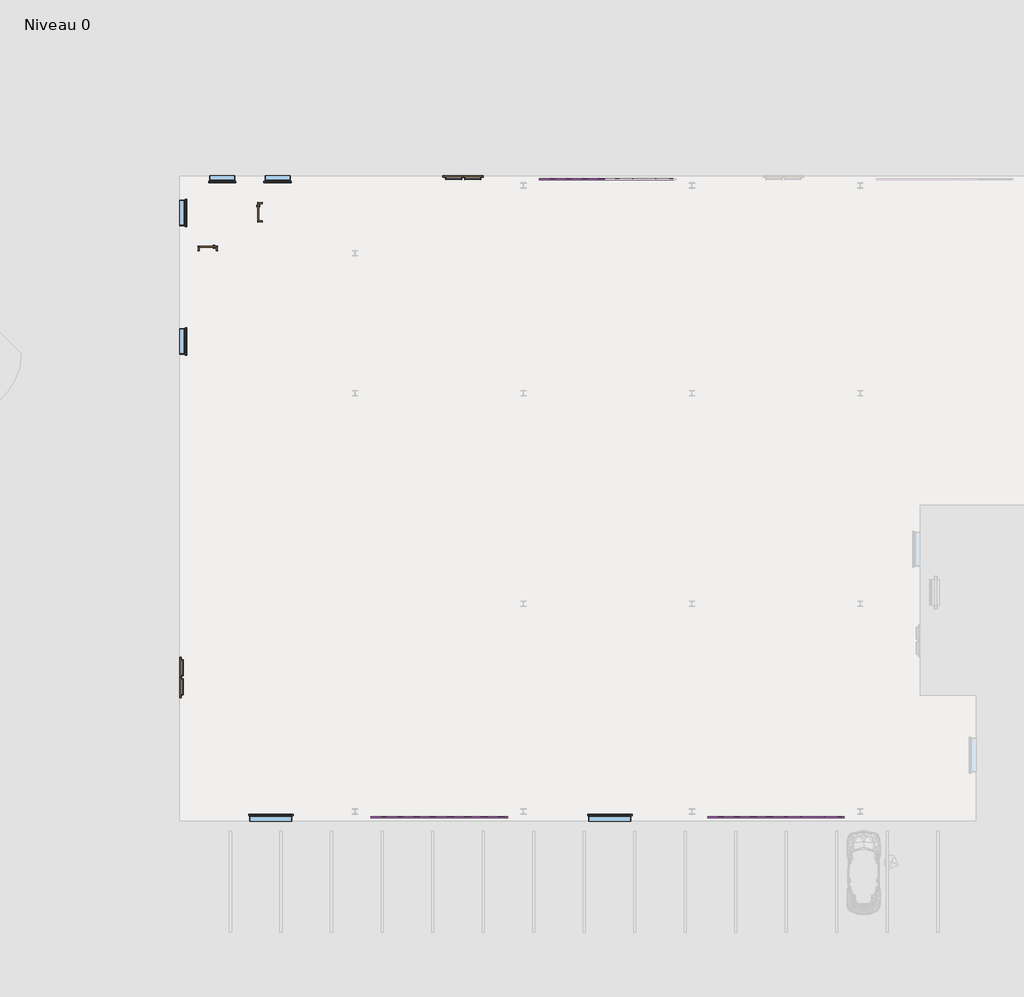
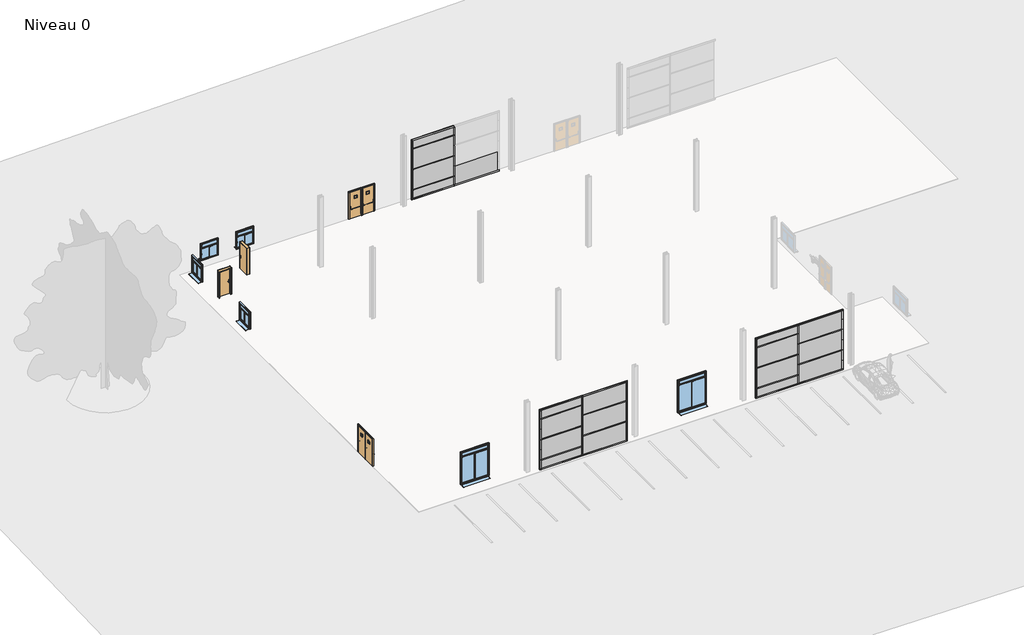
# One storey, part 1 of 2: 72 members, 19 plates, 8 doors, 6 windows.
"""IFC4 building model written with IfcOpenShell, lengths in millimetres."""

from ifc_helpers import new_model, si_unit, origin, place, context, project, spatial, transform, mapped, element, save
from components import door_abd412e6, door_0872574b, door_1_83m_x_2_10m_bea1f0ef, int_simple_pp_0_83m_x_2_04m_462b1650, meneau_rectangulaire_44a0aefb, meneau_rectangulaire_ebbe249c, meneau_rectangulaire_51ce5dd4, meneau_rectangulaire_7d612d43, meneau_rectangulaire_7dd63be9, meneau_rectangulaire_a7af7ef5, meneau_rectangulaire_d286e13e, meneau_rectangulaire_ef011fc9, meneau_rectangulaire_8479b786, meneau_rectangulaire_553993f6, meneau_rectangulaire_f8ff633f, meneau_rectangulaire_6299a4b6, meneau_rectangulaire_7ed9d279, meneau_rectangulaire_e1c9c612, meneau_rectangulaire_35514530, meneau_rectangulaire_8e3dbeaa, meneau_rectangulaire_d2acaf7e, meneau_rectangulaire_c977b74d, meneau_rectangulaire_8d5e7e53, meneau_rectangulaire_3428490f, meneau_rectangulaire_87f1da10, meneau_rectangulaire_1ec36c32, plate_52075400, plate_192b1ce9, plate_7e4ce03b, plate_5b870958, plate_f7b644e6, plate_6f0ddf90, plate_da70d993, window_1_20m_x_1_30m_dc114463, window_2_00m_x_2_50m_0c0f3709

model = new_model("IFC4")

# Units and contexts
model_context = context("Model", 3, world=origin())
ifc_project = project(units=[si_unit("LENGTHUNIT", "METRE", prefix="MILLI")], contexts=[model_context])

# Site, building, storey
site = spatial("IfcSite", under=ifc_project)
building = spatial("IfcBuilding", under=site)
storey = spatial("IfcBuildingStorey", under=building, Name="Niveau 0", Elevation=0.0)

# Doors
placement = place(None, origin())
door_shape = door_abd412e6(model_context)
element("IfcDoor", 1, ObjectType="BarreAP : BarreAP", at=placement, inside=storey, context=model_context, shape_type="MappedRepresentation", body=[
    mapped(door_shape, transform((13189.1961953, 30280.0, 0.0), x_axis=(1.0, 0.0, 0.0), y_axis=(0.0, 1.0, 0.0), z_axis=(0.0, 0.0, 1.0))),
])
element("IfcDoor", 2, ObjectType="BarreAP : BarreAP", at=placement, inside=storey, context=model_context, shape_type="MappedRepresentation", body=[
    mapped(door_shape, transform((-280.0, 6553.0018852, 0.0), x_axis=(0.0, 1.0, 0.0), y_axis=(-1.0, 0.0, 0.0), z_axis=(0.0, 0.0, 1.0))),
])
door_2_shape = door_0872574b(model_context)
element("IfcDoor", 3, ObjectType="BarreAP : BarreAP", at=placement, inside=storey, context=model_context, shape_type="MappedRepresentation", body=[
    mapped(door_2_shape, transform((13089.1961953, 30280.0, 0.0), x_axis=(-1.0, 0.0, 0.0), y_axis=(0.0, -1.0, 0.0), z_axis=(0.0, 0.0, 1.0))),
])
element("IfcDoor", 4, ObjectType="BarreAP : BarreAP", at=placement, inside=storey, context=model_context, shape_type="MappedRepresentation", body=[
    mapped(door_2_shape, transform((-280.0, 6453.0018852, 0.0), x_axis=(0.0, -1.0, 0.0), y_axis=(1.0, 0.0, 0.0), z_axis=(0.0, 0.0, 1.0))),
])
door_1_83m_x_2_10m_shape = door_1_83m_x_2_10m_bea1f0ef(model_context)
element("IfcDoor", 5, ObjectType="Issue de Secours : 1.83m x 2.10m", at=placement, inside=storey, context=model_context, shape_type="MappedRepresentation", body=[
    mapped(door_1_83m_x_2_10m_shape, transform((13139.1961953, 30150.0, 0.0), x_axis=(1.0, 0.0, 0.0), y_axis=(0.0, 1.0, 0.0), z_axis=(0.0, 0.0, 1.0))),
])
element("IfcDoor", 6, ObjectType="Issue de Secours : 1.83m x 2.10m", at=placement, inside=storey, context=model_context, shape_type="MappedRepresentation", body=[
    mapped(door_1_83m_x_2_10m_shape, transform((-150.0, 6503.0018852, 0.0), x_axis=(0.0, 1.0, 0.0), y_axis=(-1.0, 0.0, 0.0), z_axis=(0.0, 0.0, 1.0))),
])
int_simple_pp_0_83m_x_2_04m_shape = int_simple_pp_0_83m_x_2_04m_462b1650(model_context)
element("IfcDoor", 7, ObjectType="Int. Simple : PP (0.83m x 2.04m)", at=placement, inside=storey, context=model_context, shape_type="MappedRepresentation", body=[
    mapped(int_simple_pp_0_83m_x_2_04m_shape, transform((3490.578323, 28555.0, 0.0), x_axis=(0.0, -1.0, 0.0), y_axis=(1.0, 0.0, 0.0), z_axis=(0.0, 0.0, 1.0))),
])
element("IfcDoor", 8, ObjectType="Int. Simple : PP (0.83m x 2.04m)", at=placement, inside=storey, context=model_context, shape_type="MappedRepresentation", body=[
    mapped(int_simple_pp_0_83m_x_2_04m_shape, transform((975.0, 26865.9166667, 0.0), x_axis=(-1.0, 0.0, 0.0), y_axis=(0.0, -1.0, 0.0), z_axis=(0.0, 0.0, 1.0))),
])

# Members
meneau_rectangulaire_shape = meneau_rectangulaire_44a0aefb(model_context)
element("IfcMember", 9, ObjectType="Meneau rectangulaire : 5x5cm aluminium laqué gris foncé", at=placement, inside=storey, context=model_context, shape_type="MappedRepresentation", body=[
    mapped(meneau_rectangulaire_shape, transform((11905.2096551, -150.0, 100.0), x_axis=(1.0, 0.0, 0.0), y_axis=(0.0, -1.0, 0.0), z_axis=(0.0, 0.0, -1.0))),
])
element("IfcMember", 10, ObjectType="Meneau rectangulaire : 5x5cm aluminium laqué gris foncé", at=placement, inside=storey, context=model_context, shape_type="MappedRepresentation", body=[
    mapped(meneau_rectangulaire_shape, transform((27905.2096551, -150.0, 100.0), x_axis=(1.0, 0.0, 0.0), y_axis=(0.0, -1.0, 0.0), z_axis=(0.0, 0.0, -1.0))),
])
element("IfcMember", 11, ObjectType="Meneau rectangulaire : 5x5cm aluminium laqué gris foncé", at=placement, inside=storey, context=model_context, shape_type="MappedRepresentation", body=[
    mapped(meneau_rectangulaire_shape, transform((19905.2096551, 30150.0, 100.0), x_axis=(1.0, 0.0, 0.0), y_axis=(0.0, -1.0, 0.0), z_axis=(0.0, 0.0, -1.0))),
])
meneau_rectangulaire_2_shape = meneau_rectangulaire_ebbe249c(model_context)
element("IfcMember", 12, ObjectType="Meneau rectangulaire : 5x5cm aluminium laqué gris foncé", at=placement, inside=storey, context=model_context, shape_type="MappedRepresentation", body=[
    mapped(meneau_rectangulaire_2_shape, transform((11905.2096551, -150.0, 3188.16086), x_axis=(1.0, 0.0, 0.0), y_axis=(0.0, -1.0, 0.0), z_axis=(0.0, 0.0, -1.0))),
])
element("IfcMember", 13, ObjectType="Meneau rectangulaire : 5x5cm aluminium laqué gris foncé", at=placement, inside=storey, context=model_context, shape_type="MappedRepresentation", body=[
    mapped(meneau_rectangulaire_2_shape, transform((27905.2096551, -150.0, 3188.16086), x_axis=(1.0, 0.0, 0.0), y_axis=(0.0, -1.0, 0.0), z_axis=(0.0, 0.0, -1.0))),
])
element("IfcMember", 14, ObjectType="Meneau rectangulaire : 5x5cm aluminium laqué gris foncé", at=placement, inside=storey, context=model_context, shape_type="MappedRepresentation", body=[
    mapped(meneau_rectangulaire_2_shape, transform((19905.2096551, 30150.0, 3188.16086), x_axis=(1.0, 0.0, 0.0), y_axis=(0.0, -1.0, 0.0), z_axis=(0.0, 0.0, -1.0))),
])
meneau_rectangulaire_3_shape = meneau_rectangulaire_51ce5dd4(model_context)
element("IfcMember", 15, ObjectType="Meneau rectangulaire : 5x5cm aluminium laqué gris foncé", at=placement, inside=storey, context=model_context, shape_type="MappedRepresentation", body=[
    mapped(meneau_rectangulaire_3_shape, transform((11905.2096551, -150.0, 2372.10724), x_axis=(1.0, 0.0, 0.0), y_axis=(0.0, -1.0, 0.0), z_axis=(0.0, 0.0, -1.0))),
])
element("IfcMember", 16, ObjectType="Meneau rectangulaire : 5x5cm aluminium laqué gris foncé", at=placement, inside=storey, context=model_context, shape_type="MappedRepresentation", body=[
    mapped(meneau_rectangulaire_3_shape, transform((27905.2096551, -150.0, 2372.10724), x_axis=(1.0, 0.0, 0.0), y_axis=(0.0, -1.0, 0.0), z_axis=(0.0, 0.0, -1.0))),
])
element("IfcMember", 17, ObjectType="Meneau rectangulaire : 5x5cm aluminium laqué gris foncé", at=placement, inside=storey, context=model_context, shape_type="MappedRepresentation", body=[
    mapped(meneau_rectangulaire_3_shape, transform((19905.2096551, 30150.0, 2372.10724), x_axis=(1.0, 0.0, 0.0), y_axis=(0.0, -1.0, 0.0), z_axis=(0.0, 0.0, -1.0))),
])
meneau_rectangulaire_4_shape = meneau_rectangulaire_7d612d43(model_context)
element("IfcMember", 18, ObjectType="Meneau rectangulaire : 5x5cm aluminium laqué gris foncé", at=placement, inside=storey, context=model_context, shape_type="MappedRepresentation", body=[
    mapped(meneau_rectangulaire_4_shape, transform((11905.2096551, -150.0, 1576.05362), x_axis=(1.0, 0.0, 0.0), y_axis=(0.0, -1.0, 0.0), z_axis=(0.0, 0.0, -1.0))),
])
element("IfcMember", 19, ObjectType="Meneau rectangulaire : 5x5cm aluminium laqué gris foncé", at=placement, inside=storey, context=model_context, shape_type="MappedRepresentation", body=[
    mapped(meneau_rectangulaire_4_shape, transform((27905.2096551, -150.0, 1576.05362), x_axis=(1.0, 0.0, 0.0), y_axis=(0.0, -1.0, 0.0), z_axis=(0.0, 0.0, -1.0))),
])
element("IfcMember", 20, ObjectType="Meneau rectangulaire : 5x5cm aluminium laqué gris foncé", at=placement, inside=storey, context=model_context, shape_type="MappedRepresentation", body=[
    mapped(meneau_rectangulaire_4_shape, transform((19905.2096551, 30150.0, 1576.05362), x_axis=(1.0, 0.0, 0.0), y_axis=(0.0, -1.0, 0.0), z_axis=(0.0, 0.0, -1.0))),
])
meneau_rectangulaire_5_shape = meneau_rectangulaire_7dd63be9(model_context)
element("IfcMember", 21, ObjectType="Meneau rectangulaire : 5x5cm aluminium laqué gris foncé", at=placement, inside=storey, context=model_context, shape_type="MappedRepresentation", body=[
    mapped(meneau_rectangulaire_5_shape, transform((11905.2096551, -150.0, 3988.16086), x_axis=(1.0, 0.0, 0.0), y_axis=(0.0, -1.0, 0.0), z_axis=(0.0, 0.0, -1.0))),
])
meneau_rectangulaire_6_shape = meneau_rectangulaire_a7af7ef5(model_context)
element("IfcMember", 22, ObjectType="Meneau rectangulaire : 5x5cm aluminium laqué gris foncé", at=placement, inside=storey, context=model_context, shape_type="MappedRepresentation", body=[
    mapped(meneau_rectangulaire_6_shape, transform((11905.2096551, -150.0, 771.2233546), x_axis=(1.0, 0.0, 0.0), y_axis=(0.0, -1.0, 0.0), z_axis=(0.0, 0.0, -1.0))),
])
element("IfcMember", 23, ObjectType="Meneau rectangulaire : 5x5cm aluminium laqué gris foncé", at=placement, inside=storey, context=model_context, shape_type="MappedRepresentation", body=[
    mapped(meneau_rectangulaire_6_shape, transform((27905.2096551, -150.0, 771.2233546), x_axis=(1.0, 0.0, 0.0), y_axis=(0.0, -1.0, 0.0), z_axis=(0.0, 0.0, -1.0))),
])
element("IfcMember", 24, ObjectType="Meneau rectangulaire : 5x5cm aluminium laqué gris foncé", at=placement, inside=storey, context=model_context, shape_type="MappedRepresentation", body=[
    mapped(meneau_rectangulaire_6_shape, transform((19905.2096551, 30150.0, 771.2233546), x_axis=(1.0, 0.0, 0.0), y_axis=(0.0, -1.0, 0.0), z_axis=(0.0, 0.0, -1.0))),
])
meneau_rectangulaire_7_shape = meneau_rectangulaire_d286e13e(model_context)
element("IfcMember", 25, ObjectType="Meneau rectangulaire : 10x5cm aluminium laqué gris", at=placement, inside=storey, context=model_context, shape_type="MappedRepresentation", body=[
    mapped(meneau_rectangulaire_7_shape, transform((15250.0, -150.0, 100.0), x_axis=(1.0, 0.0, 0.0), y_axis=(0.0, -1.0, 0.0), z_axis=(0.0, 0.0, -1.0))),
])
element("IfcMember", 26, ObjectType="Meneau rectangulaire : 10x5cm aluminium laqué gris", at=placement, inside=storey, context=model_context, shape_type="MappedRepresentation", body=[
    mapped(meneau_rectangulaire_7_shape, transform((31250.0, -150.0, 100.0), x_axis=(1.0, 0.0, 0.0), y_axis=(0.0, -1.0, 0.0), z_axis=(0.0, 0.0, -1.0))),
])
meneau_rectangulaire_8_shape = meneau_rectangulaire_ef011fc9(model_context)
element("IfcMember", 27, ObjectType="Meneau rectangulaire : 10x5cm aluminium laqué gris", at=placement, inside=storey, context=model_context, shape_type="MappedRepresentation", body=[
    mapped(meneau_rectangulaire_8_shape, transform((8750.0, -150.0, 4628.16086), x_axis=(-1.0, 0.0, 0.0), y_axis=(0.0, -1.0, 0.0), z_axis=(0.0, 0.0, 1.0))),
])
element("IfcMember", 28, ObjectType="Meneau rectangulaire : 10x5cm aluminium laqué gris", at=placement, inside=storey, context=model_context, shape_type="MappedRepresentation", body=[
    mapped(meneau_rectangulaire_8_shape, transform((24750.0, -150.0, 4628.16086), x_axis=(-1.0, 0.0, 0.0), y_axis=(0.0, -1.0, 0.0), z_axis=(0.0, 0.0, 1.0))),
])
element("IfcMember", 29, ObjectType="Meneau rectangulaire : 10x5cm aluminium laqué gris", at=placement, inside=storey, context=model_context, shape_type="MappedRepresentation", body=[
    mapped(meneau_rectangulaire_8_shape, transform((16750.0, 30150.0, 4628.16086), x_axis=(-1.0, 0.0, 0.0), y_axis=(0.0, -1.0, 0.0), z_axis=(0.0, 0.0, 1.0))),
])
meneau_rectangulaire_9_shape = meneau_rectangulaire_8479b786(model_context)
element("IfcMember", 30, ObjectType="Meneau rectangulaire : 10x5cm aluminium laqué gris", at=placement, inside=storey, context=model_context, shape_type="MappedRepresentation", body=[
    mapped(meneau_rectangulaire_9_shape, transform((15250.0, -150.0, 3188.16086), x_axis=(1.0, 0.0, 0.0), y_axis=(0.0, -1.0, 0.0), z_axis=(0.0, 0.0, -1.0))),
])
element("IfcMember", 31, ObjectType="Meneau rectangulaire : 10x5cm aluminium laqué gris", at=placement, inside=storey, context=model_context, shape_type="MappedRepresentation", body=[
    mapped(meneau_rectangulaire_9_shape, transform((31250.0, -150.0, 3188.16086), x_axis=(1.0, 0.0, 0.0), y_axis=(0.0, -1.0, 0.0), z_axis=(0.0, 0.0, -1.0))),
])
meneau_rectangulaire_10_shape = meneau_rectangulaire_553993f6(model_context)
element("IfcMember", 32, ObjectType="Meneau rectangulaire : 10x5cm aluminium laqué gris", at=placement, inside=storey, context=model_context, shape_type="MappedRepresentation", body=[
    mapped(meneau_rectangulaire_10_shape, transform((8750.0, -150.0, 3188.16086), x_axis=(-1.0, 0.0, 0.0), y_axis=(0.0, -1.0, 0.0), z_axis=(0.0, 0.0, 1.0))),
])
element("IfcMember", 33, ObjectType="Meneau rectangulaire : 10x5cm aluminium laqué gris", at=placement, inside=storey, context=model_context, shape_type="MappedRepresentation", body=[
    mapped(meneau_rectangulaire_10_shape, transform((24750.0, -150.0, 3188.16086), x_axis=(-1.0, 0.0, 0.0), y_axis=(0.0, -1.0, 0.0), z_axis=(0.0, 0.0, 1.0))),
])
element("IfcMember", 34, ObjectType="Meneau rectangulaire : 10x5cm aluminium laqué gris", at=placement, inside=storey, context=model_context, shape_type="MappedRepresentation", body=[
    mapped(meneau_rectangulaire_10_shape, transform((16750.0, 30150.0, 3188.16086), x_axis=(-1.0, 0.0, 0.0), y_axis=(0.0, -1.0, 0.0), z_axis=(0.0, 0.0, 1.0))),
])
meneau_rectangulaire_11_shape = meneau_rectangulaire_f8ff633f(model_context)
element("IfcMember", 35, ObjectType="Meneau rectangulaire : 10x5cm aluminium laqué gris", at=placement, inside=storey, context=model_context, shape_type="MappedRepresentation", body=[
    mapped(meneau_rectangulaire_11_shape, transform((8750.0, -150.0, 1576.05362), x_axis=(-1.0, 0.0, 0.0), y_axis=(0.0, -1.0, 0.0), z_axis=(0.0, 0.0, 1.0))),
])
element("IfcMember", 36, ObjectType="Meneau rectangulaire : 10x5cm aluminium laqué gris", at=placement, inside=storey, context=model_context, shape_type="MappedRepresentation", body=[
    mapped(meneau_rectangulaire_11_shape, transform((24750.0, -150.0, 1576.05362), x_axis=(-1.0, 0.0, 0.0), y_axis=(0.0, -1.0, 0.0), z_axis=(0.0, 0.0, 1.0))),
])
element("IfcMember", 37, ObjectType="Meneau rectangulaire : 10x5cm aluminium laqué gris", at=placement, inside=storey, context=model_context, shape_type="MappedRepresentation", body=[
    mapped(meneau_rectangulaire_11_shape, transform((16750.0, 30150.0, 1576.05362), x_axis=(-1.0, 0.0, 0.0), y_axis=(0.0, -1.0, 0.0), z_axis=(0.0, 0.0, 1.0))),
])
element("IfcMember", 38, ObjectType="Meneau rectangulaire : 10x5cm aluminium laqué gris", at=placement, inside=storey, context=model_context, shape_type="MappedRepresentation", body=[
    mapped(meneau_rectangulaire_10_shape, transform((15250.0, -150.0, 2372.10724), x_axis=(1.0, 0.0, 0.0), y_axis=(0.0, -1.0, 0.0), z_axis=(0.0, 0.0, -1.0))),
])
element("IfcMember", 39, ObjectType="Meneau rectangulaire : 10x5cm aluminium laqué gris", at=placement, inside=storey, context=model_context, shape_type="MappedRepresentation", body=[
    mapped(meneau_rectangulaire_10_shape, transform((31250.0, -150.0, 2372.10724), x_axis=(1.0, 0.0, 0.0), y_axis=(0.0, -1.0, 0.0), z_axis=(0.0, 0.0, -1.0))),
])
meneau_rectangulaire_12_shape = meneau_rectangulaire_6299a4b6(model_context)
element("IfcMember", 40, ObjectType="Meneau rectangulaire : 10x5cm aluminium laqué gris", at=placement, inside=storey, context=model_context, shape_type="MappedRepresentation", body=[
    mapped(meneau_rectangulaire_12_shape, transform((15250.0, -150.0, 1576.05362), x_axis=(1.0, 0.0, 0.0), y_axis=(0.0, -1.0, 0.0), z_axis=(0.0, 0.0, -1.0))),
])
element("IfcMember", 41, ObjectType="Meneau rectangulaire : 10x5cm aluminium laqué gris", at=placement, inside=storey, context=model_context, shape_type="MappedRepresentation", body=[
    mapped(meneau_rectangulaire_12_shape, transform((31250.0, -150.0, 1576.05362), x_axis=(1.0, 0.0, 0.0), y_axis=(0.0, -1.0, 0.0), z_axis=(0.0, 0.0, -1.0))),
])
element("IfcMember", 42, ObjectType="Meneau rectangulaire : 10x5cm aluminium laqué gris", at=placement, inside=storey, context=model_context, shape_type="MappedRepresentation", body=[
    mapped(meneau_rectangulaire_12_shape, transform((8750.0, -150.0, 2372.10724), x_axis=(-1.0, 0.0, 0.0), y_axis=(0.0, -1.0, 0.0), z_axis=(0.0, 0.0, 1.0))),
])
element("IfcMember", 43, ObjectType="Meneau rectangulaire : 10x5cm aluminium laqué gris", at=placement, inside=storey, context=model_context, shape_type="MappedRepresentation", body=[
    mapped(meneau_rectangulaire_12_shape, transform((24750.0, -150.0, 2372.10724), x_axis=(-1.0, 0.0, 0.0), y_axis=(0.0, -1.0, 0.0), z_axis=(0.0, 0.0, 1.0))),
])
element("IfcMember", 44, ObjectType="Meneau rectangulaire : 10x5cm aluminium laqué gris", at=placement, inside=storey, context=model_context, shape_type="MappedRepresentation", body=[
    mapped(meneau_rectangulaire_12_shape, transform((16750.0, 30150.0, 2372.10724), x_axis=(-1.0, 0.0, 0.0), y_axis=(0.0, -1.0, 0.0), z_axis=(0.0, 0.0, 1.0))),
])
meneau_rectangulaire_13_shape = meneau_rectangulaire_7ed9d279(model_context)
element("IfcMember", 45, ObjectType="Meneau rectangulaire : 10x5cm aluminium laqué gris", at=placement, inside=storey, context=model_context, shape_type="MappedRepresentation", body=[
    mapped(meneau_rectangulaire_13_shape, transform((15250.0, -150.0, 3988.16086), x_axis=(1.0, 0.0, 0.0), y_axis=(0.0, -1.0, 0.0), z_axis=(0.0, 0.0, -1.0))),
])
element("IfcMember", 46, ObjectType="Meneau rectangulaire : 10x5cm aluminium laqué gris", at=placement, inside=storey, context=model_context, shape_type="MappedRepresentation", body=[
    mapped(meneau_rectangulaire_9_shape, transform((8750.0, -150.0, 3988.16086), x_axis=(-1.0, 0.0, 0.0), y_axis=(0.0, -1.0, 0.0), z_axis=(0.0, 0.0, 1.0))),
])
element("IfcMember", 47, ObjectType="Meneau rectangulaire : 10x5cm aluminium laqué gris", at=placement, inside=storey, context=model_context, shape_type="MappedRepresentation", body=[
    mapped(meneau_rectangulaire_9_shape, transform((24750.0, -150.0, 3988.16086), x_axis=(-1.0, 0.0, 0.0), y_axis=(0.0, -1.0, 0.0), z_axis=(0.0, 0.0, 1.0))),
])
element("IfcMember", 48, ObjectType="Meneau rectangulaire : 10x5cm aluminium laqué gris", at=placement, inside=storey, context=model_context, shape_type="MappedRepresentation", body=[
    mapped(meneau_rectangulaire_9_shape, transform((16750.0, 30150.0, 3988.16086), x_axis=(-1.0, 0.0, 0.0), y_axis=(0.0, -1.0, 0.0), z_axis=(0.0, 0.0, 1.0))),
])
element("IfcMember", 49, ObjectType="Meneau rectangulaire : 10x5cm aluminium laqué gris", at=placement, inside=storey, context=model_context, shape_type="MappedRepresentation", body=[
    mapped(meneau_rectangulaire_11_shape, transform((15250.0, -150.0, 771.2233546), x_axis=(1.0, 0.0, 0.0), y_axis=(0.0, -1.0, 0.0), z_axis=(0.0, 0.0, -1.0))),
])
element("IfcMember", 50, ObjectType="Meneau rectangulaire : 10x5cm aluminium laqué gris", at=placement, inside=storey, context=model_context, shape_type="MappedRepresentation", body=[
    mapped(meneau_rectangulaire_11_shape, transform((31250.0, -150.0, 771.2233546), x_axis=(1.0, 0.0, 0.0), y_axis=(0.0, -1.0, 0.0), z_axis=(0.0, 0.0, -1.0))),
])
meneau_rectangulaire_14_shape = meneau_rectangulaire_e1c9c612(model_context)
element("IfcMember", 51, ObjectType="Meneau rectangulaire : 10x5cm aluminium laqué gris", at=placement, inside=storey, context=model_context, shape_type="MappedRepresentation", body=[
    mapped(meneau_rectangulaire_14_shape, transform((8750.0, -150.0, 771.2233546), x_axis=(-1.0, 0.0, 0.0), y_axis=(0.0, -1.0, 0.0), z_axis=(0.0, 0.0, 1.0))),
])
meneau_rectangulaire_15_shape = meneau_rectangulaire_35514530(model_context)
element("IfcMember", 52, ObjectType="Meneau rectangulaire : 10x5cm aluminium laqué gris", at=placement, inside=storey, context=model_context, shape_type="MappedRepresentation", body=[
    mapped(meneau_rectangulaire_15_shape, transform((15150.0, -150.0, 4728.16086), x_axis=(0.0, 0.0, 1.0), y_axis=(0.0, -1.0, 0.0), z_axis=(1.0, 0.0, 0.0))),
])
meneau_rectangulaire_16_shape = meneau_rectangulaire_8e3dbeaa(model_context)
element("IfcMember", 53, ObjectType="Meneau rectangulaire : 10x5cm aluminium laqué gris", at=placement, inside=storey, context=model_context, shape_type="MappedRepresentation", body=[
    mapped(meneau_rectangulaire_16_shape, transform((8850.0, -150.0, 0.0), x_axis=(0.0, 0.0, -1.0), y_axis=(0.0, -1.0, 0.0), z_axis=(-1.0, 0.0, 0.0))),
])
meneau_rectangulaire_17_shape = meneau_rectangulaire_d2acaf7e(model_context)
element("IfcMember", 54, ObjectType="Meneau rectangulaire : 10x5cm aluminium laqué gris", at=placement, inside=storey, context=model_context, shape_type="MappedRepresentation", body=[
    mapped(meneau_rectangulaire_17_shape, transform((11880.2096551, -150.0, 4728.16086), x_axis=(0.0, 0.0, 1.0), y_axis=(0.0, -1.0, 0.0), z_axis=(1.0, 0.0, 0.0))),
])
meneau_rectangulaire_18_shape = meneau_rectangulaire_c977b74d(model_context)
element("IfcMember", 55, ObjectType="Meneau rectangulaire : 10x5cm aluminium laqué gris", at=placement, inside=storey, context=model_context, shape_type="MappedRepresentation", body=[
    mapped(meneau_rectangulaire_18_shape, transform((11905.2096551, -150.0, 0.0), x_axis=(0.0, 0.0, -1.0), y_axis=(0.0, -1.0, 0.0), z_axis=(-1.0, 0.0, 0.0))),
])
element("IfcMember", 56, ObjectType="Meneau rectangulaire : 10x5cm aluminium laqué gris", at=placement, inside=storey, context=model_context, shape_type="MappedRepresentation", body=[
    mapped(meneau_rectangulaire_18_shape, transform((27905.2096551, -150.0, 0.0), x_axis=(0.0, 0.0, -1.0), y_axis=(0.0, -1.0, 0.0), z_axis=(-1.0, 0.0, 0.0))),
])
element("IfcMember", 57, ObjectType="Meneau rectangulaire : 10x5cm aluminium laqué gris", at=placement, inside=storey, context=model_context, shape_type="MappedRepresentation", body=[
    mapped(meneau_rectangulaire_18_shape, transform((19905.2096551, 30150.0, 0.0), x_axis=(0.0, 0.0, -1.0), y_axis=(0.0, -1.0, 0.0), z_axis=(-1.0, 0.0, 0.0))),
])
meneau_rectangulaire_19_shape = meneau_rectangulaire_8d5e7e53(model_context)
element("IfcMember", 58, ObjectType="Meneau rectangulaire : 5x5cm aluminium laqué gris foncé", at=placement, inside=storey, context=model_context, shape_type="MappedRepresentation", body=[
    mapped(meneau_rectangulaire_19_shape, transform((15150.0, -150.0, 3188.16086), x_axis=(0.0, 0.0, 1.0), y_axis=(0.0, -1.0, 0.0), z_axis=(1.0, 0.0, 0.0))),
])
element("IfcMember", 59, ObjectType="Meneau rectangulaire : 5x5cm aluminium laqué gris foncé", at=placement, inside=storey, context=model_context, shape_type="MappedRepresentation", body=[
    mapped(meneau_rectangulaire_19_shape, transform((15150.0, -150.0, 1576.05362), x_axis=(0.0, 0.0, 1.0), y_axis=(0.0, -1.0, 0.0), z_axis=(1.0, 0.0, 0.0))),
])
element("IfcMember", 60, ObjectType="Meneau rectangulaire : 5x5cm aluminium laqué gris foncé", at=placement, inside=storey, context=model_context, shape_type="MappedRepresentation", body=[
    mapped(meneau_rectangulaire_19_shape, transform((31150.0, -150.0, 3188.16086), x_axis=(0.0, 0.0, 1.0), y_axis=(0.0, -1.0, 0.0), z_axis=(1.0, 0.0, 0.0))),
])
element("IfcMember", 61, ObjectType="Meneau rectangulaire : 5x5cm aluminium laqué gris foncé", at=placement, inside=storey, context=model_context, shape_type="MappedRepresentation", body=[
    mapped(meneau_rectangulaire_19_shape, transform((31150.0, -150.0, 1576.05362), x_axis=(0.0, 0.0, 1.0), y_axis=(0.0, -1.0, 0.0), z_axis=(1.0, 0.0, 0.0))),
])
meneau_rectangulaire_20_shape = meneau_rectangulaire_3428490f(model_context)
element("IfcMember", 62, ObjectType="Meneau rectangulaire : 5x5cm aluminium laqué gris foncé", at=placement, inside=storey, context=model_context, shape_type="MappedRepresentation", body=[
    mapped(meneau_rectangulaire_20_shape, transform((11880.2096551, -150.0, 2372.10724), x_axis=(0.0, 0.0, 1.0), y_axis=(0.0, -1.0, 0.0), z_axis=(1.0, 0.0, 0.0))),
])
element("IfcMember", 63, ObjectType="Meneau rectangulaire : 5x5cm aluminium laqué gris foncé", at=placement, inside=storey, context=model_context, shape_type="MappedRepresentation", body=[
    mapped(meneau_rectangulaire_20_shape, transform((11880.2096551, -150.0, 3988.16086), x_axis=(0.0, 0.0, 1.0), y_axis=(0.0, -1.0, 0.0), z_axis=(1.0, 0.0, 0.0))),
])
element("IfcMember", 64, ObjectType="Meneau rectangulaire : 5x5cm aluminium laqué gris foncé", at=placement, inside=storey, context=model_context, shape_type="MappedRepresentation", body=[
    mapped(meneau_rectangulaire_20_shape, transform((11880.2096551, -150.0, 771.2233546), x_axis=(0.0, 0.0, 1.0), y_axis=(0.0, -1.0, 0.0), z_axis=(1.0, 0.0, 0.0))),
])
element("IfcMember", 65, ObjectType="Meneau rectangulaire : 5x5cm aluminium laqué gris foncé", at=placement, inside=storey, context=model_context, shape_type="MappedRepresentation", body=[
    mapped(meneau_rectangulaire_20_shape, transform((27880.2096551, -150.0, 2372.10724), x_axis=(0.0, 0.0, 1.0), y_axis=(0.0, -1.0, 0.0), z_axis=(1.0, 0.0, 0.0))),
])
element("IfcMember", 66, ObjectType="Meneau rectangulaire : 5x5cm aluminium laqué gris foncé", at=placement, inside=storey, context=model_context, shape_type="MappedRepresentation", body=[
    mapped(meneau_rectangulaire_20_shape, transform((27880.2096551, -150.0, 3988.16086), x_axis=(0.0, 0.0, 1.0), y_axis=(0.0, -1.0, 0.0), z_axis=(1.0, 0.0, 0.0))),
])
element("IfcMember", 67, ObjectType="Meneau rectangulaire : 5x5cm aluminium laqué gris foncé", at=placement, inside=storey, context=model_context, shape_type="MappedRepresentation", body=[
    mapped(meneau_rectangulaire_20_shape, transform((27880.2096551, -150.0, 771.2233546), x_axis=(0.0, 0.0, 1.0), y_axis=(0.0, -1.0, 0.0), z_axis=(1.0, 0.0, 0.0))),
])
element("IfcMember", 68, ObjectType="Meneau rectangulaire : 5x5cm aluminium laqué gris foncé", at=placement, inside=storey, context=model_context, shape_type="MappedRepresentation", body=[
    mapped(meneau_rectangulaire_20_shape, transform((19880.2096551, 30150.0, 2372.10724), x_axis=(0.0, 0.0, 1.0), y_axis=(0.0, -1.0, 0.0), z_axis=(1.0, 0.0, 0.0))),
])
element("IfcMember", 69, ObjectType="Meneau rectangulaire : 5x5cm aluminium laqué gris foncé", at=placement, inside=storey, context=model_context, shape_type="MappedRepresentation", body=[
    mapped(meneau_rectangulaire_20_shape, transform((19880.2096551, 30150.0, 3988.16086), x_axis=(0.0, 0.0, 1.0), y_axis=(0.0, -1.0, 0.0), z_axis=(1.0, 0.0, 0.0))),
])
element("IfcMember", 70, ObjectType="Meneau rectangulaire : 5x5cm aluminium laqué gris foncé", at=placement, inside=storey, context=model_context, shape_type="MappedRepresentation", body=[
    mapped(meneau_rectangulaire_20_shape, transform((19880.2096551, 30150.0, 771.2233546), x_axis=(0.0, 0.0, 1.0), y_axis=(0.0, -1.0, 0.0), z_axis=(1.0, 0.0, 0.0))),
])
element("IfcMember", 71, ObjectType="Meneau rectangulaire : 10x5cm aluminium laqué gris", at=placement, inside=storey, context=model_context, shape_type="MappedRepresentation", body=[
    mapped(meneau_rectangulaire_8_shape, transform((31250.0, -150.0, 3988.16086), x_axis=(1.0, 0.0, 0.0), y_axis=(0.0, -1.0, 0.0), z_axis=(0.0, 0.0, -1.0))),
])
element("IfcMember", 72, ObjectType="Meneau rectangulaire : 10x5cm aluminium laqué gris", at=placement, inside=storey, context=model_context, shape_type="MappedRepresentation", body=[
    mapped(meneau_rectangulaire_18_shape, transform((31250.0, -150.0, 4728.16086), x_axis=(0.0, 0.0, 1.0), y_axis=(0.0, -1.0, 0.0), z_axis=(1.0, 0.0, 0.0))),
])
meneau_rectangulaire_21_shape = meneau_rectangulaire_87f1da10(model_context)
element("IfcMember", 73, ObjectType="Meneau rectangulaire : 10x5cm aluminium laqué gris", at=placement, inside=storey, context=model_context, shape_type="MappedRepresentation", body=[
    mapped(meneau_rectangulaire_21_shape, transform((24750.0, -150.0, 0.0), x_axis=(0.0, 0.0, -1.0), y_axis=(0.0, -1.0, 0.0), z_axis=(-1.0, 0.0, 0.0))),
])
element("IfcMember", 74, ObjectType="Meneau rectangulaire : 10x5cm aluminium laqué gris", at=placement, inside=storey, context=model_context, shape_type="MappedRepresentation", body=[
    mapped(meneau_rectangulaire_21_shape, transform((16750.0, 30150.0, 0.0), x_axis=(0.0, 0.0, -1.0), y_axis=(0.0, -1.0, 0.0), z_axis=(-1.0, 0.0, 0.0))),
])
element("IfcMember", 75, ObjectType="Meneau rectangulaire : 10x5cm aluminium laqué gris", at=placement, inside=storey, context=model_context, shape_type="MappedRepresentation", body=[
    mapped(meneau_rectangulaire_21_shape, transform((27905.2096551, -150.0, 4728.16086), x_axis=(0.0, 0.0, 1.0), y_axis=(0.0, -1.0, 0.0), z_axis=(1.0, 0.0, 0.0))),
])
element("IfcMember", 76, ObjectType="Meneau rectangulaire : 10x5cm aluminium laqué gris", at=placement, inside=storey, context=model_context, shape_type="MappedRepresentation", body=[
    mapped(meneau_rectangulaire_21_shape, transform((19905.2096551, 30150.0, 4728.16086), x_axis=(0.0, 0.0, 1.0), y_axis=(0.0, -1.0, 0.0), z_axis=(1.0, 0.0, 0.0))),
])
element("IfcMember", 77, ObjectType="Meneau rectangulaire : 10x5cm aluminium laqué gris", at=placement, inside=storey, context=model_context, shape_type="MappedRepresentation", body=[
    mapped(meneau_rectangulaire_7_shape, transform((24750.0, -150.0, 771.2233546), x_axis=(-1.0, 0.0, 0.0), y_axis=(0.0, -1.0, 0.0), z_axis=(0.0, 0.0, 1.0))),
])
element("IfcMember", 78, ObjectType="Meneau rectangulaire : 10x5cm aluminium laqué gris", at=placement, inside=storey, context=model_context, shape_type="MappedRepresentation", body=[
    mapped(meneau_rectangulaire_7_shape, transform((16750.0, 30150.0, 771.2233546), x_axis=(-1.0, 0.0, 0.0), y_axis=(0.0, -1.0, 0.0), z_axis=(0.0, 0.0, 1.0))),
])
meneau_rectangulaire_22_shape = meneau_rectangulaire_1ec36c32(model_context)
element("IfcMember", 79, ObjectType="Meneau rectangulaire : 5x5cm aluminium laqué gris foncé", at=placement, inside=storey, context=model_context, shape_type="MappedRepresentation", body=[
    mapped(meneau_rectangulaire_22_shape, transform((27905.2096551, -150.0, 3988.16086), x_axis=(1.0, 0.0, 0.0), y_axis=(0.0, -1.0, 0.0), z_axis=(0.0, 0.0, -1.0))),
])
element("IfcMember", 80, ObjectType="Meneau rectangulaire : 5x5cm aluminium laqué gris foncé", at=placement, inside=storey, context=model_context, shape_type="MappedRepresentation", body=[
    mapped(meneau_rectangulaire_22_shape, transform((19905.2096551, 30150.0, 3988.16086), x_axis=(1.0, 0.0, 0.0), y_axis=(0.0, -1.0, 0.0), z_axis=(0.0, 0.0, -1.0))),
])

# Plates
plate_shape = plate_52075400(model_context)
element("IfcPlate", 81, ObjectType="Panneau système : Vitrages extérieur", at=placement, inside=storey, context=model_context, shape_type="MappedRepresentation", body=[
    mapped(plate_shape, transform((10365.1048276, -150.0, 100.0), x_axis=(1.0, 0.0, 0.0), y_axis=(0.0, 1.0, 0.0), z_axis=(0.0, 0.0, 1.0))),
])
element("IfcPlate", 82, ObjectType="Panneau système : Vitrages extérieur", at=placement, inside=storey, context=model_context, shape_type="MappedRepresentation", body=[
    mapped(plate_shape, transform((26365.1048276, -150.0, 100.0), x_axis=(1.0, 0.0, 0.0), y_axis=(0.0, 1.0, 0.0), z_axis=(0.0, 0.0, 1.0))),
])
element("IfcPlate", 83, ObjectType="Panneau système : Vitrages extérieur", at=placement, inside=storey, context=model_context, shape_type="MappedRepresentation", body=[
    mapped(plate_shape, transform((18365.1048276, 30150.0, 100.0), x_axis=(1.0, 0.0, 0.0), y_axis=(0.0, 1.0, 0.0), z_axis=(0.0, 0.0, 1.0))),
])
plate_2_shape = plate_192b1ce9(model_context)
element("IfcPlate", 84, ObjectType="Panneau système : Vitrages extérieur", at=placement, inside=storey, context=model_context, shape_type="MappedRepresentation", body=[
    mapped(plate_2_shape, transform((13540.1048276, -150.0, 100.0), x_axis=(1.0, 0.0, 0.0), y_axis=(0.0, 1.0, 0.0), z_axis=(0.0, 0.0, 1.0))),
])
element("IfcPlate", 85, ObjectType="Panneau système : Vitrages extérieur", at=placement, inside=storey, context=model_context, shape_type="MappedRepresentation", body=[
    mapped(plate_2_shape, transform((29540.1048276, -150.0, 100.0), x_axis=(1.0, 0.0, 0.0), y_axis=(0.0, 1.0, 0.0), z_axis=(0.0, 0.0, 1.0))),
])
element("IfcPlate", 86, ObjectType="Panneau système : Vitrages extérieur", at=placement, inside=storey, context=model_context, shape_type="MappedRepresentation", body=[
    mapped(plate_2_shape, transform((21540.1048276, 30150.0, 100.0), x_axis=(1.0, 0.0, 0.0), y_axis=(0.0, 1.0, 0.0), z_axis=(0.0, 0.0, 1.0))),
])
plate_3_shape = plate_7e4ce03b(model_context)
element("IfcPlate", 87, ObjectType="Panneau système : Vitrages extérieur", at=placement, inside=storey, context=model_context, shape_type="MappedRepresentation", body=[
    mapped(plate_3_shape, transform((13540.1048276, -150.0, 3213.16086), x_axis=(1.0, 0.0, 0.0), y_axis=(0.0, 1.0, 0.0), z_axis=(0.0, 0.0, 1.0))),
])
element("IfcPlate", 88, ObjectType="Panneau système : Vitrages extérieur", at=placement, inside=storey, context=model_context, shape_type="MappedRepresentation", body=[
    mapped(plate_3_shape, transform((29540.1048276, -150.0, 3213.16086), x_axis=(1.0, 0.0, 0.0), y_axis=(0.0, 1.0, 0.0), z_axis=(0.0, 0.0, 1.0))),
])
plate_4_shape = plate_5b870958(model_context)
element("IfcPlate", 89, ObjectType="Panneau système : Vitrages extérieur", at=placement, inside=storey, context=model_context, shape_type="MappedRepresentation", body=[
    mapped(plate_4_shape, transform((13540.1048276, -150.0, 1601.05362), x_axis=(1.0, 0.0, 0.0), y_axis=(0.0, 1.0, 0.0), z_axis=(0.0, 0.0, 1.0))),
])
element("IfcPlate", 90, ObjectType="Panneau système : Vitrages extérieur", at=placement, inside=storey, context=model_context, shape_type="MappedRepresentation", body=[
    mapped(plate_4_shape, transform((29540.1048276, -150.0, 1601.05362), x_axis=(1.0, 0.0, 0.0), y_axis=(0.0, 1.0, 0.0), z_axis=(0.0, 0.0, 1.0))),
])
plate_5_shape = plate_f7b644e6(model_context)
element("IfcPlate", 91, ObjectType="Panneau système : Vitrages extérieur", at=placement, inside=storey, context=model_context, shape_type="MappedRepresentation", body=[
    mapped(plate_5_shape, transform((10365.1048276, -150.0, 2397.10724), x_axis=(1.0, 0.0, 0.0), y_axis=(0.0, 1.0, 0.0), z_axis=(0.0, 0.0, 1.0))),
])
element("IfcPlate", 92, ObjectType="Panneau système : Vitrages extérieur", at=placement, inside=storey, context=model_context, shape_type="MappedRepresentation", body=[
    mapped(plate_5_shape, transform((26365.1048276, -150.0, 2397.10724), x_axis=(1.0, 0.0, 0.0), y_axis=(0.0, 1.0, 0.0), z_axis=(0.0, 0.0, 1.0))),
])
element("IfcPlate", 93, ObjectType="Panneau système : Vitrages extérieur", at=placement, inside=storey, context=model_context, shape_type="MappedRepresentation", body=[
    mapped(plate_5_shape, transform((18365.1048276, 30150.0, 2397.10724), x_axis=(1.0, 0.0, 0.0), y_axis=(0.0, 1.0, 0.0), z_axis=(0.0, 0.0, 1.0))),
])
plate_6_shape = plate_6f0ddf90(model_context)
element("IfcPlate", 94, ObjectType="Panneau système : Vitrages extérieur", at=placement, inside=storey, context=model_context, shape_type="MappedRepresentation", body=[
    mapped(plate_6_shape, transform((10365.1048276, -150.0, 4013.16086), x_axis=(1.0, 0.0, 0.0), y_axis=(0.0, 1.0, 0.0), z_axis=(0.0, 0.0, 1.0))),
])
element("IfcPlate", 95, ObjectType="Panneau système : Vitrages extérieur", at=placement, inside=storey, context=model_context, shape_type="MappedRepresentation", body=[
    mapped(plate_6_shape, transform((26365.1048276, -150.0, 4013.16086), x_axis=(1.0, 0.0, 0.0), y_axis=(0.0, 1.0, 0.0), z_axis=(0.0, 0.0, 1.0))),
])
element("IfcPlate", 96, ObjectType="Panneau système : Vitrages extérieur", at=placement, inside=storey, context=model_context, shape_type="MappedRepresentation", body=[
    mapped(plate_6_shape, transform((18365.1048276, 30150.0, 4013.16086), x_axis=(1.0, 0.0, 0.0), y_axis=(0.0, 1.0, 0.0), z_axis=(0.0, 0.0, 1.0))),
])
plate_7_shape = plate_da70d993(model_context)
element("IfcPlate", 97, ObjectType="Panneau système : Vitrages extérieur", at=placement, inside=storey, context=model_context, shape_type="MappedRepresentation", body=[
    mapped(plate_7_shape, transform((10365.1048276, -150.0, 796.2233546), x_axis=(1.0, 0.0, 0.0), y_axis=(0.0, 1.0, 0.0), z_axis=(0.0, 0.0, 1.0))),
])
element("IfcPlate", 98, ObjectType="Panneau système : Vitrages extérieur", at=placement, inside=storey, context=model_context, shape_type="MappedRepresentation", body=[
    mapped(plate_7_shape, transform((26365.1048276, -150.0, 796.2233546), x_axis=(1.0, 0.0, 0.0), y_axis=(0.0, 1.0, 0.0), z_axis=(0.0, 0.0, 1.0))),
])
element("IfcPlate", 99, ObjectType="Panneau système : Vitrages extérieur", at=placement, inside=storey, context=model_context, shape_type="MappedRepresentation", body=[
    mapped(plate_7_shape, transform((18365.1048276, 30150.0, 796.2233546), x_axis=(1.0, 0.0, 0.0), y_axis=(0.0, 1.0, 0.0), z_axis=(0.0, 0.0, 1.0))),
])

# Windows
window_1_20m_x_1_30m_shape = window_1_20m_x_1_30m_dc114463(model_context)
element("IfcWindow", 100, ObjectType="2 Vantaux coul. - Imposte haute : 1.20m x 1.30m", at=placement, inside=storey, context=model_context, shape_type="MappedRepresentation", body=[
    mapped(window_1_20m_x_1_30m_shape, transform((-150.0, 22456.9923628, 0.0), x_axis=(0.0, 1.0, 0.0), y_axis=(-1.0, 0.0, 0.0), z_axis=(0.0, 0.0, 1.0))),
])
element("IfcWindow", 101, ObjectType="2 Vantaux coul. - Imposte haute : 1.20m x 1.30m", at=placement, inside=storey, context=model_context, shape_type="MappedRepresentation", body=[
    mapped(window_1_20m_x_1_30m_shape, transform((-150.0, 28556.9923628, 0.0), x_axis=(0.0, 1.0, 0.0), y_axis=(-1.0, 0.0, 0.0), z_axis=(0.0, 0.0, 1.0))),
])
element("IfcWindow", 102, ObjectType="2 Vantaux coul. - Imposte haute : 1.20m x 1.30m", at=placement, inside=storey, context=model_context, shape_type="MappedRepresentation", body=[
    mapped(window_1_20m_x_1_30m_shape, transform((1700.2891615, 30150.0, 0.0), x_axis=(1.0, 0.0, 0.0), y_axis=(0.0, 1.0, 0.0), z_axis=(0.0, 0.0, 1.0))),
])
element("IfcWindow", 103, ObjectType="2 Vantaux coul. - Imposte haute : 1.20m x 1.30m", at=placement, inside=storey, context=model_context, shape_type="MappedRepresentation", body=[
    mapped(window_1_20m_x_1_30m_shape, transform((4330.578323, 30150.0, 0.0), x_axis=(1.0, 0.0, 0.0), y_axis=(0.0, 1.0, 0.0), z_axis=(0.0, 0.0, 1.0))),
])
window_2_00m_x_2_50m_shape = window_2_00m_x_2_50m_0c0f3709(model_context)
element("IfcWindow", 104, ObjectType="2 Vantaux coul. - Imposte haute : 2.00m x 2.50m", at=placement, inside=storey, context=model_context, shape_type="MappedRepresentation", body=[
    mapped(window_2_00m_x_2_50m_shape, transform((4010.0, -150.0, 0.0), x_axis=(-1.0, 0.0, 0.0), y_axis=(0.0, -1.0, 0.0), z_axis=(0.0, 0.0, 1.0))),
])
element("IfcWindow", 105, ObjectType="2 Vantaux coul. - Imposte haute : 2.00m x 2.50m", at=placement, inside=storey, context=model_context, shape_type="MappedRepresentation", body=[
    mapped(window_2_00m_x_2_50m_shape, transform((20110.0, -150.0, 0.0), x_axis=(-1.0, 0.0, 0.0), y_axis=(0.0, -1.0, 0.0), z_axis=(0.0, 0.0, 1.0))),
])

save(model, "model.ifc")
